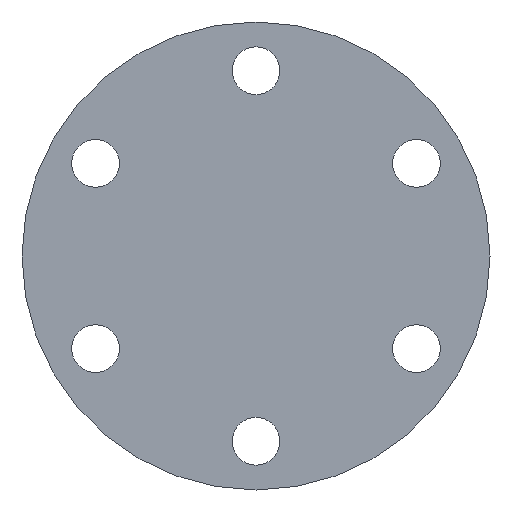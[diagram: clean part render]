
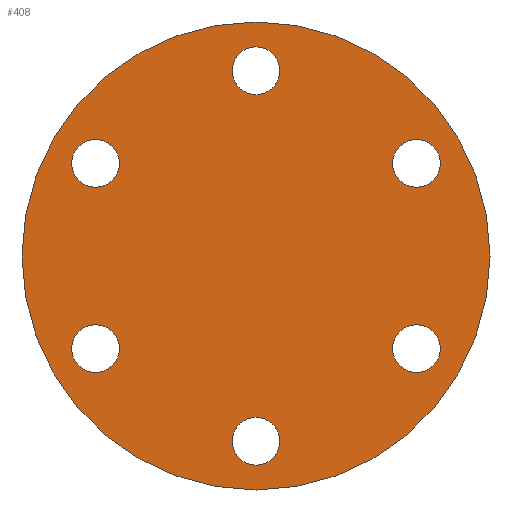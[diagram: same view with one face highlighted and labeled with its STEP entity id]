
A CAD part, front view. The second image highlights one B-rep face of the part: STEP entity #408.
In plain terms, the highlighted planar face has unit normal (0, -1, 0).
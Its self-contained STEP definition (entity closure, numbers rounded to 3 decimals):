
#11 = CIRCLE ( 'NONE', #839, 12.5 ) ;
#32 = EDGE_CURVE ( 'NONE', #955, #337, #979, .T. ) ;
#33 = EDGE_LOOP ( 'NONE', ( #127, #851 ) ) ;
#35 = CARTESIAN_POINT ( 'NONE',  ( 0., 0., -97. ) ) ;
#52 = CARTESIAN_POINT ( 'NONE',  ( 84.004, 0., 48.5 ) ) ;
#57 = VERTEX_POINT ( 'NONE', #910 ) ;
#72 = DIRECTION ( 'NONE',  ( 0., -1., 0. ) ) ;
#74 = DIRECTION ( 'NONE',  ( 0., 0., -1. ) ) ;
#95 = FACE_BOUND ( 'NONE', #963, .T. ) ;
#109 = DIRECTION ( 'NONE',  ( 0., 0., -1. ) ) ;
#117 = CARTESIAN_POINT ( 'NONE',  ( 0., 0., -109.5 ) ) ;
#124 = EDGE_CURVE ( 'NONE', #337, #955, #535, .T. ) ;
#127 = ORIENTED_EDGE ( 'NONE', *, *, #759, .F. ) ;
#129 = VERTEX_POINT ( 'NONE', #305 ) ;
#140 = ORIENTED_EDGE ( 'NONE', *, *, #941, .F. ) ;
#144 = AXIS2_PLACEMENT_3D ( 'NONE', #52, #749, #811 ) ;
#148 = DIRECTION ( 'NONE',  ( 0., -1., 0. ) ) ;
#152 = DIRECTION ( 'NONE',  ( 0., -1., 0. ) ) ;
#157 = AXIS2_PLACEMENT_3D ( 'NONE', #632, #867, #191 ) ;
#170 = PLANE ( 'NONE',  #703 ) ;
#172 = CARTESIAN_POINT ( 'NONE',  ( 0., 0., 109.5 ) ) ;
#173 = AXIS2_PLACEMENT_3D ( 'NONE', #713, #737, #953 ) ;
#191 = DIRECTION ( 'NONE',  ( 0., 0., -1. ) ) ;
#194 = ORIENTED_EDGE ( 'NONE', *, *, #948, .F. ) ;
#197 = EDGE_CURVE ( 'NONE', #129, #290, #483, .T. ) ;
#206 = EDGE_CURVE ( 'NONE', #799, #869, #11, .T. ) ;
#207 = CIRCLE ( 'NONE', #621, 12.5 ) ;
#208 = VERTEX_POINT ( 'NONE', #172 ) ;
#210 = CARTESIAN_POINT ( 'NONE',  ( 0., 0., 84.5 ) ) ;
#213 = ORIENTED_EDGE ( 'NONE', *, *, #814, .F. ) ;
#220 = DIRECTION ( 'NONE',  ( 0., -1., 0. ) ) ;
#236 = CARTESIAN_POINT ( 'NONE',  ( 84.004, 0., -48.5 ) ) ;
#246 = DIRECTION ( 'NONE',  ( 0., 1., 0. ) ) ;
#247 = DIRECTION ( 'NONE',  ( 0., 0., -1. ) ) ;
#248 = VERTEX_POINT ( 'NONE', #616 ) ;
#260 = DIRECTION ( 'NONE',  ( 0., -1., 0. ) ) ;
#261 = DIRECTION ( 'NONE',  ( 0., -1., 0. ) ) ;
#280 = EDGE_CURVE ( 'NONE', #248, #696, #719, .T. ) ;
#284 = CARTESIAN_POINT ( 'NONE',  ( -84.004, 0., 36. ) ) ;
#286 = CIRCLE ( 'NONE', #157, 122.5 ) ;
#290 = VERTEX_POINT ( 'NONE', #529 ) ;
#292 = DIRECTION ( 'NONE',  ( 0., 0., -1. ) ) ;
#302 = CIRCLE ( 'NONE', #608, 12.5 ) ;
#305 = CARTESIAN_POINT ( 'NONE',  ( 0., 0., -122.5 ) ) ;
#307 = FACE_OUTER_BOUND ( 'NONE', #397, .T. ) ;
#311 = FACE_BOUND ( 'NONE', #774, .T. ) ;
#317 = FACE_BOUND ( 'NONE', #456, .T. ) ;
#318 = DIRECTION ( 'NONE',  ( 0., -1., 0. ) ) ;
#334 = DIRECTION ( 'NONE',  ( 0., -1., 0. ) ) ;
#337 = VERTEX_POINT ( 'NONE', #432 ) ;
#368 = ORIENTED_EDGE ( 'NONE', *, *, #124, .F. ) ;
#374 = CIRCLE ( 'NONE', #795, 12.5 ) ;
#397 = EDGE_LOOP ( 'NONE', ( #818, #552 ) ) ;
#400 = DIRECTION ( 'NONE',  ( 0., 0., 1. ) ) ;
#403 = CIRCLE ( 'NONE', #453, 12.5 ) ;
#408 = ADVANCED_FACE ( 'NONE', ( #317, #311, #614, #95, #459, #760, #307 ), #170, .F. ) ;
#414 = EDGE_CURVE ( 'NONE', #717, #208, #302, .T. ) ;
#416 = AXIS2_PLACEMENT_3D ( 'NONE', #705, #334, #628 ) ;
#420 = VERTEX_POINT ( 'NONE', #684 ) ;
#430 = CARTESIAN_POINT ( 'NONE',  ( 84.004, 0., -36. ) ) ;
#432 = CARTESIAN_POINT ( 'NONE',  ( 84.004, 0., 61. ) ) ;
#442 = DIRECTION ( 'NONE',  ( 0., 0., -1. ) ) ;
#453 = AXIS2_PLACEMENT_3D ( 'NONE', #554, #260, #475 ) ;
#456 = EDGE_LOOP ( 'NONE', ( #462, #942 ) ) ;
#459 = FACE_BOUND ( 'NONE', #33, .T. ) ;
#462 = ORIENTED_EDGE ( 'NONE', *, *, #559, .F. ) ;
#467 = DIRECTION ( 'NONE',  ( 0., 0., -1. ) ) ;
#468 = CARTESIAN_POINT ( 'NONE',  ( 0., 0., 0. ) ) ;
#475 = DIRECTION ( 'NONE',  ( 0., 0., -1. ) ) ;
#483 = CIRCLE ( 'NONE', #624, 122.5 ) ;
#502 = AXIS2_PLACEMENT_3D ( 'NONE', #823, #148, #442 ) ;
#529 = CARTESIAN_POINT ( 'NONE',  ( 0., 0., 122.5 ) ) ;
#534 = AXIS2_PLACEMENT_3D ( 'NONE', #652, #220, #964 ) ;
#535 = CIRCLE ( 'NONE', #716, 12.5 ) ;
#552 = ORIENTED_EDGE ( 'NONE', *, *, #973, .T. ) ;
#553 = DIRECTION ( 'NONE',  ( 0., -1., 0. ) ) ;
#554 = CARTESIAN_POINT ( 'NONE',  ( 0., 0., -97. ) ) ;
#559 = EDGE_CURVE ( 'NONE', #678, #958, #403, .T. ) ;
#586 = ORIENTED_EDGE ( 'NONE', *, *, #32, .F. ) ;
#594 = EDGE_CURVE ( 'NONE', #958, #678, #841, .T. ) ;
#608 = AXIS2_PLACEMENT_3D ( 'NONE', #927, #680, #467 ) ;
#611 = DIRECTION ( 'NONE',  ( 0., 0., -1. ) ) ;
#614 = FACE_BOUND ( 'NONE', #987, .T. ) ;
#616 = CARTESIAN_POINT ( 'NONE',  ( -84.004, 0., 61. ) ) ;
#617 = DIRECTION ( 'NONE',  ( 0., 0., -1. ) ) ;
#621 = AXIS2_PLACEMENT_3D ( 'NONE', #894, #72, #292 ) ;
#622 = CIRCLE ( 'NONE', #416, 12.5 ) ;
#624 = AXIS2_PLACEMENT_3D ( 'NONE', #468, #318, #611 ) ;
#628 = DIRECTION ( 'NONE',  ( 0., 0., -1. ) ) ;
#632 = CARTESIAN_POINT ( 'NONE',  ( 0., 0., 0. ) ) ;
#652 = CARTESIAN_POINT ( 'NONE',  ( -84.004, 0., 48.5 ) ) ;
#678 = VERTEX_POINT ( 'NONE', #117 ) ;
#680 = DIRECTION ( 'NONE',  ( 0., -1., 0. ) ) ;
#684 = CARTESIAN_POINT ( 'NONE',  ( -84.004, 0., -36. ) ) ;
#696 = VERTEX_POINT ( 'NONE', #284 ) ;
#703 = AXIS2_PLACEMENT_3D ( 'NONE', #763, #246, #400 ) ;
#705 = CARTESIAN_POINT ( 'NONE',  ( -84.004, 0., -48.5 ) ) ;
#709 = CARTESIAN_POINT ( 'NONE',  ( 0., 0., -84.5 ) ) ;
#713 = CARTESIAN_POINT ( 'NONE',  ( -84.004, 0., -48.5 ) ) ;
#714 = EDGE_LOOP ( 'NONE', ( #870, #140 ) ) ;
#716 = AXIS2_PLACEMENT_3D ( 'NONE', #914, #152, #74 ) ;
#717 = VERTEX_POINT ( 'NONE', #210 ) ;
#719 = CIRCLE ( 'NONE', #502, 12.5 ) ;
#737 = DIRECTION ( 'NONE',  ( 0., -1., 0. ) ) ;
#749 = DIRECTION ( 'NONE',  ( 0., -1., 0. ) ) ;
#759 = EDGE_CURVE ( 'NONE', #696, #248, #923, .T. ) ;
#760 = FACE_BOUND ( 'NONE', #714, .T. ) ;
#763 = CARTESIAN_POINT ( 'NONE',  ( -122.5, 0., 0. ) ) ;
#768 = CIRCLE ( 'NONE', #173, 12.5 ) ;
#774 = EDGE_LOOP ( 'NONE', ( #844, #194 ) ) ;
#785 = CARTESIAN_POINT ( 'NONE',  ( 84.004, 0., 36. ) ) ;
#795 = AXIS2_PLACEMENT_3D ( 'NONE', #943, #261, #617 ) ;
#799 = VERTEX_POINT ( 'NONE', #808 ) ;
#808 = CARTESIAN_POINT ( 'NONE',  ( 84.004, 0., -61. ) ) ;
#811 = DIRECTION ( 'NONE',  ( 0., 0., -1. ) ) ;
#814 = EDGE_CURVE ( 'NONE', #208, #717, #207, .T. ) ;
#818 = ORIENTED_EDGE ( 'NONE', *, *, #197, .T. ) ;
#823 = CARTESIAN_POINT ( 'NONE',  ( -84.004, 0., 48.5 ) ) ;
#839 = AXIS2_PLACEMENT_3D ( 'NONE', #236, #849, #247 ) ;
#841 = CIRCLE ( 'NONE', #886, 12.5 ) ;
#844 = ORIENTED_EDGE ( 'NONE', *, *, #206, .F. ) ;
#847 = ORIENTED_EDGE ( 'NONE', *, *, #414, .F. ) ;
#849 = DIRECTION ( 'NONE',  ( 0., -1., 0. ) ) ;
#851 = ORIENTED_EDGE ( 'NONE', *, *, #280, .F. ) ;
#867 = DIRECTION ( 'NONE',  ( 0., -1., 0. ) ) ;
#869 = VERTEX_POINT ( 'NONE', #430 ) ;
#870 = ORIENTED_EDGE ( 'NONE', *, *, #984, .F. ) ;
#886 = AXIS2_PLACEMENT_3D ( 'NONE', #35, #553, #109 ) ;
#894 = CARTESIAN_POINT ( 'NONE',  ( 0., 0., 97. ) ) ;
#910 = CARTESIAN_POINT ( 'NONE',  ( -84.004, 0., -61. ) ) ;
#914 = CARTESIAN_POINT ( 'NONE',  ( 84.004, 0., 48.5 ) ) ;
#923 = CIRCLE ( 'NONE', #534, 12.5 ) ;
#927 = CARTESIAN_POINT ( 'NONE',  ( 0., 0., 97. ) ) ;
#941 = EDGE_CURVE ( 'NONE', #420, #57, #622, .T. ) ;
#942 = ORIENTED_EDGE ( 'NONE', *, *, #594, .F. ) ;
#943 = CARTESIAN_POINT ( 'NONE',  ( 84.004, 0., -48.5 ) ) ;
#948 = EDGE_CURVE ( 'NONE', #869, #799, #374, .T. ) ;
#953 = DIRECTION ( 'NONE',  ( 0., 0., -1. ) ) ;
#955 = VERTEX_POINT ( 'NONE', #785 ) ;
#958 = VERTEX_POINT ( 'NONE', #709 ) ;
#963 = EDGE_LOOP ( 'NONE', ( #847, #213 ) ) ;
#964 = DIRECTION ( 'NONE',  ( 0., 0., -1. ) ) ;
#973 = EDGE_CURVE ( 'NONE', #290, #129, #286, .T. ) ;
#979 = CIRCLE ( 'NONE', #144, 12.5 ) ;
#984 = EDGE_CURVE ( 'NONE', #57, #420, #768, .T. ) ;
#987 = EDGE_LOOP ( 'NONE', ( #586, #368 ) ) ;
